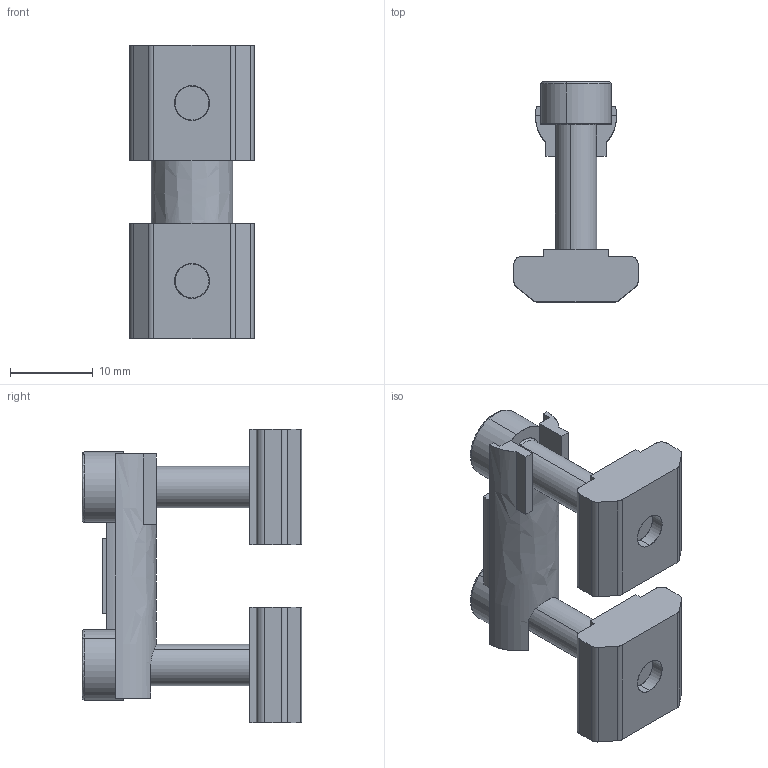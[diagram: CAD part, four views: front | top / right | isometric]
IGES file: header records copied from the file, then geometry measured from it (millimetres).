
Start section: SolidWorks IGES file using analytic representation for surfaces
Global section: file name: C:\Documents and Settings\Administrator\デスクトップ\指定保存後3回目\SolidWorks\SF\SF30\Bracket\Sダブルジョイントキット30\SFK-301S.IGS; native system: SolidWorks 2006 by SolidWorks Corporation; preprocessor: SolidWorks 2006 by SolidWorks Corporation; author: Administrator; date: 061213.092208; units: millimetre
Bounding box: 15 x 26.57 x 35.5 mm (x, y, z)
Surface area: 3612.5 mm2 (no closed solid volume)
Topology: 0 solids, 0 shells, 133 faces, 2618 edges, 3266 vertices
Faces by surface type: bspline 94, revolution 39
